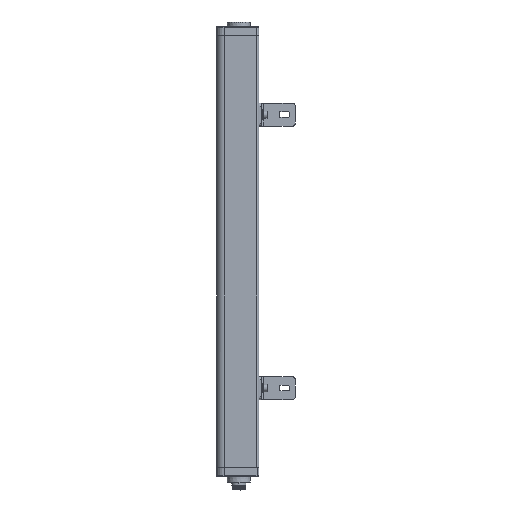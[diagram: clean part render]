
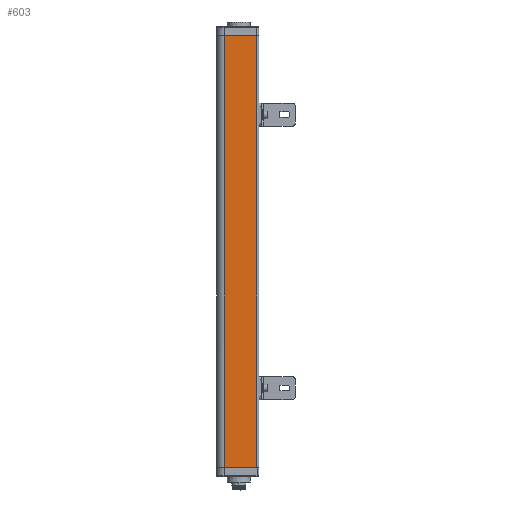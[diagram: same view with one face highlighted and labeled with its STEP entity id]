
A CAD part, left-side view. The second image highlights one B-rep face of the part: STEP entity #603.
In plain terms, the highlighted planar face has unit normal (-1, 0, 0).
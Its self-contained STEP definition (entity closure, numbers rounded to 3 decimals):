
#21=CARTESIAN_POINT('',(-17.5,18.206,0.));
#29=DIRECTION('',(0.,1.,0.));
#30=VECTOR('',#29,41.056);
#31=CARTESIAN_POINT('',(-17.5,-22.85,0.));
#32=LINE('',#31,#30);
#204=DIRECTION('',(0.,0.,1.));
#205=VECTOR('',#204,545.);
#206=CARTESIAN_POINT('',(-17.5,18.206,0.));
#207=LINE('',#206,#205);
#208=DIRECTION('',(0.,1.,0.));
#209=VECTOR('',#208,41.056);
#210=CARTESIAN_POINT('',(-17.5,-22.85,545.));
#211=LINE('',#210,#209);
#212=DIRECTION('',(0.,0.,-1.));
#213=VECTOR('',#212,545.);
#214=CARTESIAN_POINT('',(-17.5,-22.85,545.));
#215=LINE('',#214,#213);
#337=CARTESIAN_POINT('',(-17.5,-22.85,0.));
#339=VERTEX_POINT('',#337);
#350=VERTEX_POINT('',#21);
#399=CARTESIAN_POINT('',(-17.5,18.206,545.));
#400=VERTEX_POINT('',#399);
#405=CARTESIAN_POINT('',(-17.5,-22.85,545.));
#406=VERTEX_POINT('',#405);
#591=CARTESIAN_POINT('',(-17.5,18.206,1750.));
#592=DIRECTION('',(1.,0.,0.));
#593=DIRECTION('',(0.,0.,-1.));
#594=AXIS2_PLACEMENT_3D('',#591,#592,#593);
#595=PLANE('',#594);
#596=ORIENTED_EDGE('',*,*,#428,.T.);
#597=ORIENTED_EDGE('',*,*,#586,.T.);
#598=ORIENTED_EDGE('',*,*,#543,.F.);
#600=ORIENTED_EDGE('',*,*,#599,.T.);
#601=EDGE_LOOP('',(#596,#597,#598,#600));
#602=FACE_OUTER_BOUND('',#601,.F.);
#603=ADVANCED_FACE('',(#602),#595,.F.);
#428=EDGE_CURVE('',#339,#350,#32,.T.);
#543=EDGE_CURVE('',#406,#400,#211,.T.);
#586=EDGE_CURVE('',#350,#400,#207,.T.);
#599=EDGE_CURVE('',#406,#339,#215,.T.);
